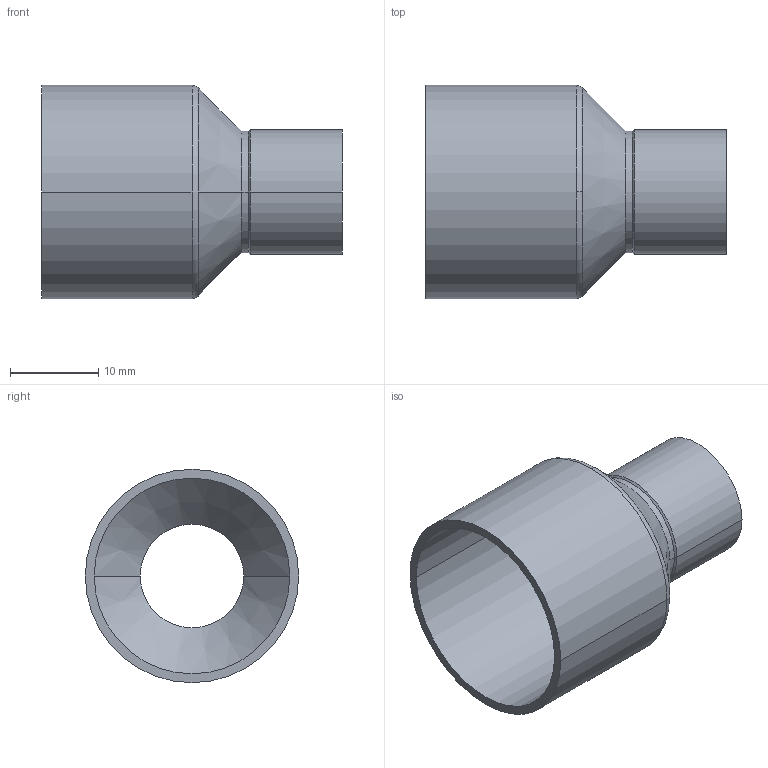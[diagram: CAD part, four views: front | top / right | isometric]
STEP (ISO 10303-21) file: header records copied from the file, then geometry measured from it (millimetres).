
FILE_DESCRIPTION((''),'2;1');
FILE_NAME('G:\Technics\CAD\Bauteile\Serie 15240\152402212.stp','2005-10-21T12:51:07',('boden'),(''),'Autodesk Inventor 8','Autodesk Inventor 8','');
FILE_SCHEMA(('AUTOMOTIVE_DESIGN { 1 0 10303 214 1 1 1 1 }'));
Length unit declared in the file: millimetre
Products named in the file (1): 152402212
Bounding box: 34 x 24.13 x 24.13 mm (x, y, z)
Volume: 2142.3 mm3; surface area: 4398.4 mm2
Topology: 1 solids, 1 shells, 24 faces, 52 edges, 30 vertices
Faces by surface type: cylinder 12, cone 8, torus 2, plane 2
Entity records: 683 total; most frequent: DIRECTION 134, CARTESIAN_POINT 107, ORIENTED_EDGE 104, AXIS2_PLACEMENT_3D 57, EDGE_CURVE 52, CIRCLE 32, VERTEX_POINT 30, EDGE_LOOP 26
